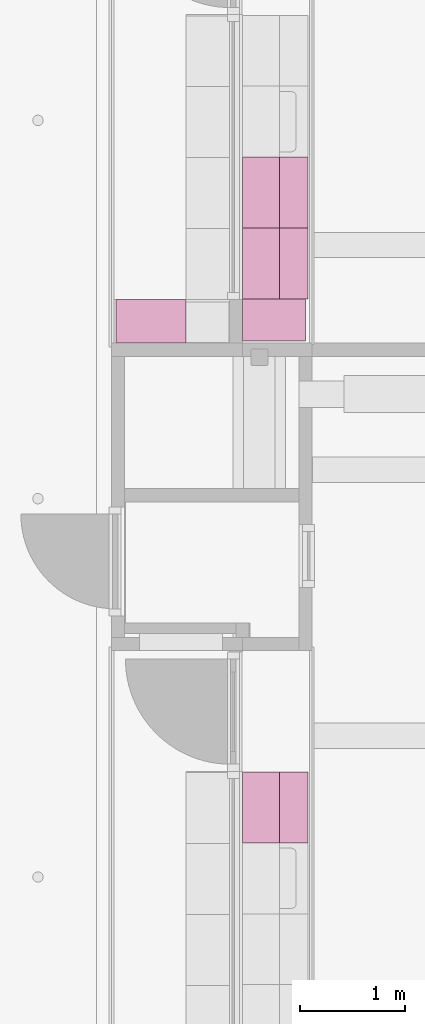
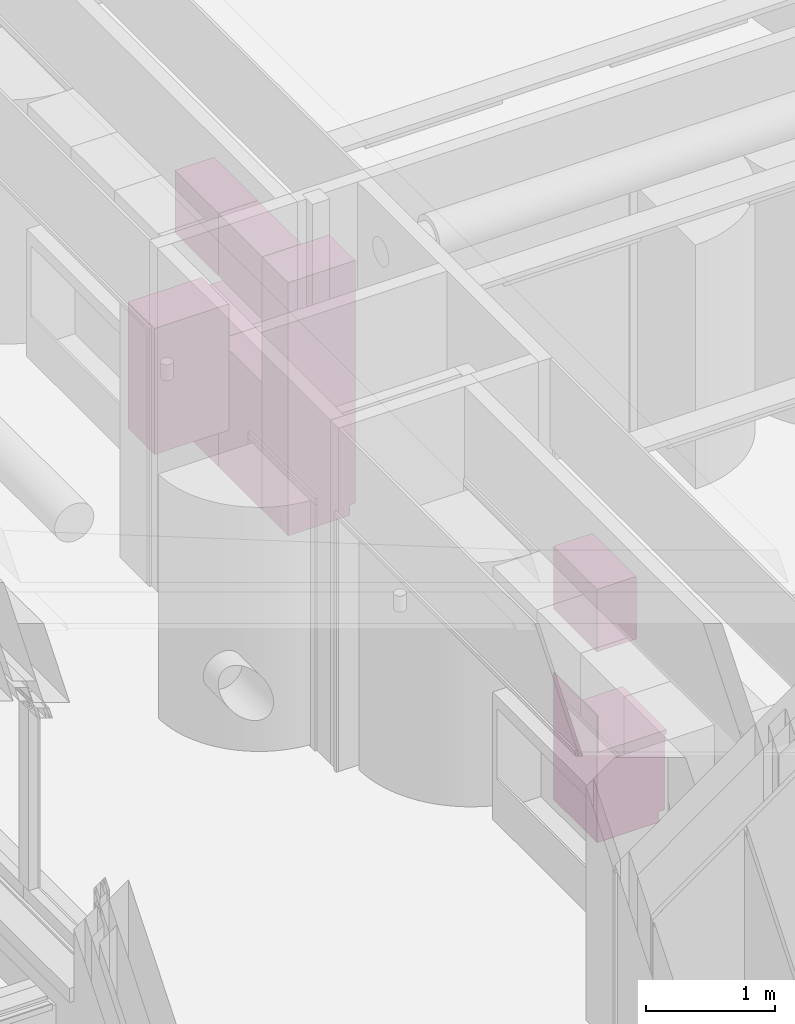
# One storey, part 86 of 128: 5 furnishings.
"""IFC2X3 building model written with IfcOpenShell, lengths in millimetres."""

from ifc_helpers import new_model, entity, si_unit, converted_unit, derived_unit, direction, frame, origin, origin_2d_with_axis, place, context, subcontext, project, spatial, polyline, rectangle, outline, extrude, source, transform, mapped, material, type_object, type_shapes, element, save


model = new_model("IFC2X3")

# Units and contexts
model_context = context("Model", 3, precision=0.01, world=origin(), true_north=direction((6.123031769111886e-17, 1.0)))
body_context = subcontext(model_context, "Body", "Model", "MODEL_VIEW")
ifc_project = project(units=[si_unit("LENGTHUNIT", "METRE", prefix="MILLI"), si_unit("AREAUNIT", "SQUARE_METRE"), si_unit("VOLUMEUNIT", "CUBIC_METRE"), converted_unit("PLANEANGLEUNIT", "DEGREE", entity("IfcRatioMeasure", 0.017453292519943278), si_unit("PLANEANGLEUNIT", "RADIAN"), dimensions=[0, 0, 0, 0, 0, 0, 0]), si_unit("MASSUNIT", "GRAM", prefix="KILO"), derived_unit("MASSDENSITYUNIT", [(si_unit("MASSUNIT", "GRAM", prefix="KILO"), 1), (si_unit("LENGTHUNIT", "METRE"), -3)]), derived_unit("IONCONCENTRATIONUNIT", [(si_unit("MASSUNIT", "GRAM", prefix="KILO"), 1), (si_unit("LENGTHUNIT", "METRE"), -3)]), derived_unit("MOMENTOFINERTIAUNIT", [(si_unit("LENGTHUNIT", "METRE"), 4)]), si_unit("TIMEUNIT", "SECOND"), si_unit("FREQUENCYUNIT", "HERTZ"), si_unit("THERMODYNAMICTEMPERATUREUNIT", "DEGREE_CELSIUS"), derived_unit("THERMALTRANSMITTANCEUNIT", [(si_unit("MASSUNIT", "GRAM", prefix="KILO"), 1), (si_unit("THERMODYNAMICTEMPERATUREUNIT", "KELVIN"), -1), (si_unit("TIMEUNIT", "SECOND"), -3)]), derived_unit("THERMALCONDUCTANCEUNIT", [(si_unit("MASSUNIT", "GRAM", prefix="KILO"), 1), (si_unit("THERMODYNAMICTEMPERATUREUNIT", "KELVIN"), -1), (si_unit("TIMEUNIT", "SECOND"), -3), (si_unit("LENGTHUNIT", "METRE"), 1)]), derived_unit("VOLUMETRICFLOWRATEUNIT", [(si_unit("LENGTHUNIT", "METRE"), 3), (si_unit("TIMEUNIT", "SECOND"), -1)]), derived_unit("MASSFLOWRATEUNIT", [(si_unit("MASSUNIT", "GRAM", prefix="KILO"), 1), (si_unit("TIMEUNIT", "SECOND"), -1)]), derived_unit("ROTATIONALFREQUENCYUNIT", [(si_unit("TIMEUNIT", "SECOND"), -1)]), si_unit("ELECTRICCURRENTUNIT", "AMPERE"), si_unit("ELECTRICVOLTAGEUNIT", "VOLT"), si_unit("POWERUNIT", "WATT"), si_unit("FORCEUNIT", "NEWTON", prefix="KILO"), si_unit("ILLUMINANCEUNIT", "LUX"), si_unit("LUMINOUSFLUXUNIT", "LUMEN"), si_unit("LUMINOUSINTENSITYUNIT", "CANDELA"), derived_unit("USERDEFINED", [(si_unit("MASSUNIT", "GRAM", prefix="KILO"), -1), (si_unit("LENGTHUNIT", "METRE"), -2), (si_unit("TIMEUNIT", "SECOND"), 3), (si_unit("LUMINOUSFLUXUNIT", "LUMEN"), 1)]), derived_unit("USERDEFINED", [(si_unit("MASSUNIT", "GRAM", prefix="KILO"), 1), (si_unit("TIMEUNIT", "SECOND"), -3), (si_unit("LENGTHUNIT", "METRE"), 3), (si_unit("ELECTRICCURRENTUNIT", "AMPERE"), -2)]), derived_unit("SOUNDPOWERUNIT", [(si_unit("MASSUNIT", "GRAM", prefix="KILO"), 1), (si_unit("TIMEUNIT", "SECOND"), -3), (si_unit("LENGTHUNIT", "METRE"), 2)]), derived_unit("SOUNDPRESSUREUNIT", [(si_unit("MASSUNIT", "GRAM", prefix="KILO"), 1), (si_unit("LENGTHUNIT", "METRE"), -1), (si_unit("TIMEUNIT", "SECOND"), -2)]), derived_unit("LINEARVELOCITYUNIT", [(si_unit("LENGTHUNIT", "METRE"), 1), (si_unit("TIMEUNIT", "SECOND"), -1)]), si_unit("PRESSUREUNIT", "PASCAL"), derived_unit("USERDEFINED", [(si_unit("MASSUNIT", "GRAM", prefix="KILO"), 1), (si_unit("LENGTHUNIT", "METRE"), -2), (si_unit("TIMEUNIT", "SECOND"), -2)]), derived_unit("LINEARFORCEUNIT", [(si_unit("MASSUNIT", "GRAM", prefix="KILO"), 1), (si_unit("TIMEUNIT", "SECOND"), -2)]), derived_unit("PLANARFORCEUNIT", [(si_unit("MASSUNIT", "GRAM", prefix="KILO"), 1), (si_unit("LENGTHUNIT", "METRE"), -1), (si_unit("TIMEUNIT", "SECOND"), -2)]), derived_unit("SPECIFICHEATCAPACITYUNIT", [(si_unit("THERMODYNAMICTEMPERATUREUNIT", "KELVIN"), -1), (si_unit("LENGTHUNIT", "METRE"), 2), (si_unit("TIMEUNIT", "SECOND"), -2)]), derived_unit("HEATINGVALUEUNIT", [(si_unit("LENGTHUNIT", "METRE"), 2), (si_unit("TIMEUNIT", "SECOND"), -2)]), derived_unit("VAPORPERMEABILITYUNIT", [(si_unit("LENGTHUNIT", "METRE"), -1), (si_unit("TIMEUNIT", "SECOND"), 1)]), derived_unit("DYNAMICVISCOSITYUNIT", [(si_unit("MASSUNIT", "GRAM", prefix="KILO"), 1), (si_unit("TIMEUNIT", "SECOND"), -1), (si_unit("LENGTHUNIT", "METRE"), -1)]), derived_unit("THERMALEXPANSIONCOEFFICIENTUNIT", [(si_unit("THERMODYNAMICTEMPERATUREUNIT", "KELVIN"), -1)]), derived_unit("MODULUSOFELASTICITYUNIT", [(si_unit("MASSUNIT", "GRAM", prefix="KILO"), 1), (si_unit("LENGTHUNIT", "METRE"), -1), (si_unit("TIMEUNIT", "SECOND"), -2)]), derived_unit("ISOTHERMALMOISTURECAPACITYUNIT", [(si_unit("LENGTHUNIT", "METRE"), 3), (si_unit("MASSUNIT", "GRAM", prefix="KILO"), -1)]), derived_unit("MOISTUREDIFFUSIVITYUNIT", [(si_unit("TIMEUNIT", "SECOND"), -1), (si_unit("LENGTHUNIT", "METRE"), 2)])], contexts=[model_context])

# Site, building, storey, space
site_placement = place(None, frame((0.0, 300.0, 0.0)))
site = spatial("IfcSite", under=ifc_project, at=site_placement, Name="<Kadastrale nummers>", CompositionType="ELEMENT")
building_placement = place(site_placement, origin())
building = spatial("IfcBuilding", under=site, at=building_placement, CompositionType="ELEMENT")
storey_placement = place(building_placement, frame((0.0, 0.0, 3560.0000331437)))
storey = spatial("IfcBuildingStorey", under=building, at=storey_placement, Name="01 eerste verdieping", CompositionType="ELEMENT", Elevation=3560.0000331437)
space_1_placement = place(storey_placement, origin())
space_1 = spatial("IfcSpace", under=storey, at=space_1_placement, Name="1.21", CompositionType="ELEMENT", InteriorOrExteriorSpace="INTERNAL")

# Furnishings
ifc_material = material(Name="ISR_HPL Kleur hout")
furniture_type_1 = type_object("IfcFurnitureType", Name="00_DAT Vaste inrichting Keukenkasten:Kast met Bovenkast 120 B675", material=ifc_material)
shared_shape_1 = source(origin(), body_context, "Body", "SweptSolid", [
    extrude(outline(polyline([(-615.5, 107.50000000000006), (-615.5, -442.4999999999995), (584.5, -442.4999999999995), (584.5, 177.49999999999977), (546.5, 177.49999999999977), (546.5, 157.49999999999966), (-515.5, 157.49999999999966), (-515.5, 107.50000000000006), (-615.5, 107.50000000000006)])), frame((0.0, 442.4999999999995, 615.5), z_axis=(-1.0, 0.0, 0.0), x_axis=(0.0, 0.0, 1.0)), (0.0, 0.0, -1.0), 675.0000000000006),
    extrude(rectangle(XDim=350.0, YDim=675.0000000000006, at=origin_2d_with_axis()), frame((337.5000000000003, 175.0, 1800.0), z_axis=(0.0, 0.0, 1.0), x_axis=(0.0, -1.0, 0.0)), (0.0, 0.0, 1.0), 590.0000000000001),
])
type_shapes(furniture_type_1, [shared_shape_1])
furnishing_1_placement = place(space_1_placement, frame((41240.0, 24929.998623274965, 90.00000187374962), z_axis=(0.0, 0.0, 1.0), x_axis=(0.0, -1.0, 0.0)))
element("IfcFurnishingElement", 1, at=furnishing_1_placement, inside=space_1, type_object=furniture_type_1, material=ifc_material, Name="00_DAT Vaste inrichting Keukenkasten:Kast met Bovenkast 120 B675", ObjectType="00_DAT Vaste inrichting Keukenkasten:Kast met Bovenkast 120 B675", context=body_context, shape_type="MappedRepresentation", body=[
    mapped(shared_shape_1, transform((0.0, 0.0, 0.0), scale=1.0)),
])
furniture_type_2 = type_object("IfcFurnitureType", Name="00_DAT Vaste inrichting Keukenkasten hoog:Hogekast Lokaal 400B", material=ifc_material)
shared_shape_2 = source(origin(), body_context, "Body", "SweptSolid", [
    extrude(outline(polyline([(-830.0, 166.66666666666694), (-830.0, -383.3333333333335), (1560.0, -383.3333333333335), (1560.0, 216.66666666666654), (-730.0, 216.66666666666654), (-730.0, 166.66666666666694), (-830.0, 166.66666666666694)])), frame((0.0, 383.3333333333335, 830.0), z_axis=(-1.0, 0.0, 0.0), x_axis=(0.0, 0.0, 1.0)), (0.0, 0.0, -1.0), 400.00000000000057),
])
type_shapes(furniture_type_2, [shared_shape_2])
furnishing_2_placement = place(space_1_placement, frame((41240.0, 24254.99862327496, 90.00000187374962), z_axis=(0.0, 0.0, 1.0), x_axis=(0.0, -1.0, 0.0)))
element("IfcFurnishingElement", 2, at=furnishing_2_placement, inside=space_1, type_object=furniture_type_2, material=ifc_material, Name="00_DAT Vaste inrichting Keukenkasten hoog:Hogekast Lokaal 400B", ObjectType="00_DAT Vaste inrichting Keukenkasten hoog:Hogekast Lokaal 400B", context=body_context, shape_type="MappedRepresentation", body=[
    mapped(shared_shape_2, transform((0.0, 0.0, 0.0), scale=1.0)),
])
furniture_type_3 = type_object("IfcFurnitureType", Name="00_DAT Vaste inrichting Keukenkasten:Kast met Bovenkast 120 B675", material=ifc_material)
shared_shape_3 = source(origin(), body_context, "Body", "SweptSolid", [
    extrude(outline(polyline([(-615.5, 107.50000000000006), (-615.5, -442.4999999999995), (584.5, -442.4999999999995), (584.5, 177.49999999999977), (546.5, 177.49999999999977), (546.5, 157.49999999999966), (-515.5, 157.49999999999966), (-515.5, 107.50000000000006), (-615.5, 107.50000000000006)])), frame((0.0, 442.4999999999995, 615.5), z_axis=(-1.0, 0.0, 0.0), x_axis=(0.0, 0.0, 1.0)), (0.0, 0.0, -1.0), 675.0000000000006),
    extrude(rectangle(XDim=350.0, YDim=675.0000000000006, at=origin_2d_with_axis()), frame((337.5000000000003, 175.0, 1800.0), z_axis=(0.0, 0.0, 1.0), x_axis=(0.0, -1.0, 0.0)), (0.0, 0.0, 1.0), 590.0000000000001),
])
type_shapes(furniture_type_3, [shared_shape_3])
furnishing_3_placement = place(space_1_placement, frame((41240.0, 25604.99862327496, 90.00000187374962), z_axis=(0.0, 0.0, 1.0), x_axis=(0.0, -1.0, 0.0)))
element("IfcFurnishingElement", 3, at=furnishing_3_placement, inside=space_1, type_object=furniture_type_3, material=ifc_material, Name="00_DAT Vaste inrichting Keukenkasten:Kast met Bovenkast 120 B675", ObjectType="00_DAT Vaste inrichting Keukenkasten:Kast met Bovenkast 120 B675", context=body_context, shape_type="MappedRepresentation", body=[
    mapped(shared_shape_3, transform((0.0, 0.0, 0.0), scale=1.0)),
])

# Space
space_2_placement = place(storey_placement, origin())
space_2 = spatial("IfcSpace", under=storey, at=space_2_placement, Name="1.22", CompositionType="ELEMENT", InteriorOrExteriorSpace="INTERNAL")

# Furnishing
furniture_type_4 = type_object("IfcFurnitureType", Name="00_DAT Vaste inrichting Keukenkasten:Kast met Bovenkast B675 H850", material=ifc_material)
shared_shape_4 = source(origin(), body_context, "Body", "SweptSolid", [
    extrude(rectangle(XDim=9.999999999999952, YDim=674.9999999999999, at=origin_2d_with_axis()), frame((337.49999999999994, 5.0, 850.0), z_axis=(0.0, 0.0, 1.0), x_axis=(0.0, -1.0, 0.0)), (0.0, 0.0, 1.0), 350.00000000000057),
    extrude(outline(polyline([(-440.5, 107.50000000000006), (-440.5, -442.4999999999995), (409.4999999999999, -442.4999999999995), (409.4999999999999, 177.49999999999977), (371.4999999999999, 177.49999999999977), (371.4999999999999, 157.49999999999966), (-340.4999999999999, 157.49999999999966), (-340.4999999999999, 107.50000000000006), (-440.5, 107.50000000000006)])), frame((0.0, 442.4999999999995, 440.5), z_axis=(-1.0, 0.0, 0.0), x_axis=(0.0, 0.0, 1.0)), (0.0, 0.0, -1.0), 675.0000000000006),
    extrude(rectangle(XDim=350.0, YDim=675.0000000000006, at=origin_2d_with_axis()), frame((337.5000000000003, 175.0, 1800.0), z_axis=(0.0, 0.0, 1.0), x_axis=(0.0, -1.0, 0.0)), (0.0, 0.0, 1.0), 590.0000000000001),
])
type_shapes(furniture_type_4, [shared_shape_4])
furnishing_4_placement = place(space_2_placement, frame((41240.0, 19754.998623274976, 90.00000187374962), z_axis=(0.0, 0.0, 1.0), x_axis=(0.0, -1.0, 0.0)))
element("IfcFurnishingElement", 4, at=furnishing_4_placement, inside=space_2, type_object=furniture_type_4, material=ifc_material, Name="00_DAT Vaste inrichting Keukenkasten:Kast met Bovenkast B675 H850", ObjectType="00_DAT Vaste inrichting Keukenkasten:Kast met Bovenkast B675 H850", context=body_context, shape_type="MappedRepresentation", body=[
    mapped(shared_shape_4, transform((0.0, 0.0, 0.0), scale=1.0)),
])

# Space
space_3_placement = place(storey_placement, origin())
space_3 = spatial("IfcSpace", under=storey, at=space_3_placement, Name="1.21a", CompositionType="ELEMENT", InteriorOrExteriorSpace="INTERNAL")

# Furnishing
furniture_type_5 = type_object("IfcFurnitureType", Name="00_DAT Vaste inrichting Boven Keukenkasten:Bovenkast Gaderobe B643 Hoog", material=ifc_material)
shared_shape_5 = source(origin(), body_context, "Body", "SweptSolid", [
    extrude(rectangle(XDim=663.0000000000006, YDim=415.0, at=origin_2d_with_axis()), frame((331.5000000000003, -207.5, 1200.0)), (0.0, 0.0, 1.0), 1189.9999999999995),
])
type_shapes(furniture_type_5, [shared_shape_5])
furnishing_5_placement = place(space_3_placement, frame((40700.0, 23834.99862327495, 90.00000187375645), z_axis=(0.0, 0.0, 1.0), x_axis=(-1.0, 0.0, 0.0)))
element("IfcFurnishingElement", 5, at=furnishing_5_placement, inside=space_3, type_object=furniture_type_5, material=ifc_material, Name="00_DAT Vaste inrichting Boven Keukenkasten:Bovenkast Gaderobe B643 Hoog", ObjectType="00_DAT Vaste inrichting Boven Keukenkasten:Bovenkast Gaderobe B643 Hoog", context=body_context, shape_type="MappedRepresentation", body=[
    mapped(shared_shape_5, transform((0.0, 0.0, 0.0), scale=1.0)),
])

save(model, "model.ifc")
